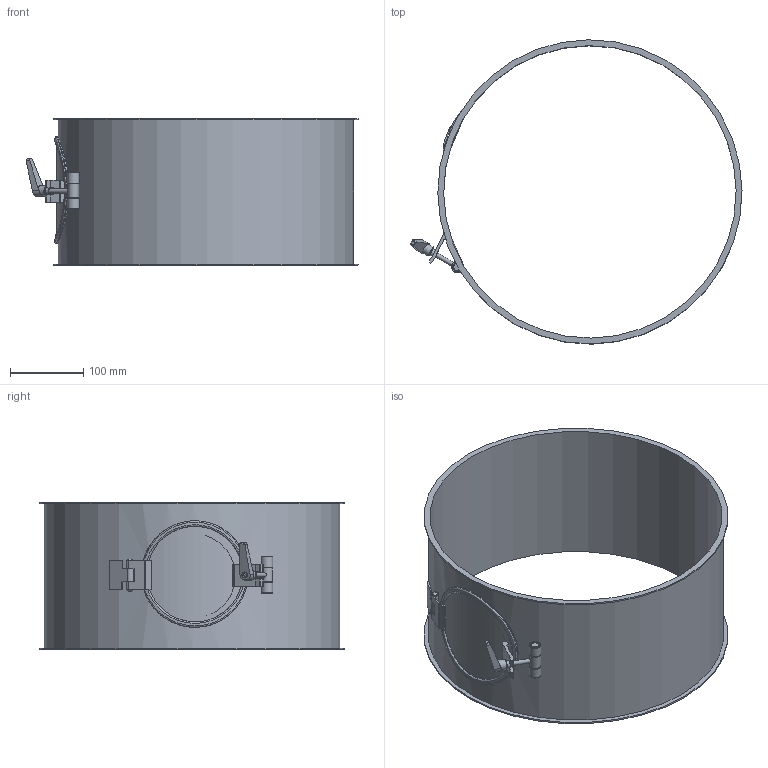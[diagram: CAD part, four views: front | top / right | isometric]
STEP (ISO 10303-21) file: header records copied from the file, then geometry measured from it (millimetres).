
FILE_DESCRIPTION((''),'2;1');
FILE_NAME('U:\Wolfgang\Marcel-3D\fertig\Kapitel 4\4021043.stp','2011-04-21T08:31:47',('TK1'),(''),'Autodesk Inventor 2010','Autodesk Inventor 2010','');
FILE_SCHEMA(('AUTOMOTIVE_DESIGN { 1 0 10303 214 1 1 1 1 }'));
Length unit declared in the file: millimetre
Products named in the file (13): 4021043 (Detailgenauigkeit1); 4021043-1; GelenkDeckel40; GelenkDeckel1c; Deckel402; Deckel40; GelenkDeckel35a; dichtung40; Halterung Deckel40; VerschlussB6; Verschluss1; Verschluss2; Verstellbarer Klemmhebel GN 101-14-M6-SW
Assembly tree (13 placements, depth 3):
  4021043 (Detailgenauigkeit1)
    4021043-1
    GelenkDeckel40
    GelenkDeckel1c
    Deckel402
      Deckel40
      GelenkDeckel35a
      dichtung40
      Halterung Deckel40
    VerschlussB6
      Verschluss1  x2
      Verschluss2
    Verstellbarer Klemmhebel GN 101-14-M6-SW
Bounding box: 451.86 x 413.99 x 200 mm (x, y, z)
Volume: 574356.2 mm3; surface area: 577193.1 mm2
Topology: 11 solids, 11 shells, 143 faces, 328 edges, 215 vertices
Faces by surface type: plane 67, cylinder 47, cone 18, torus 5, bspline 4, sphere 2
Full cylindrical faces by diameter (mm): 4.8 x1, 6 x5, 8 x1, 10 x3, 11 x2, 14 x1, 15 x1, 16 x2, 115 x1, 130 x1, 135 x1, 145 x1, 398 x1, 402 x1, 414 x2
Entity records: 5656 total; most frequent: CARTESIAN_POINT 2388, DIRECTION 632, ORIENTED_EDGE 532, EDGE_CURVE 266, AXIS2_PLACEMENT_3D 247, VERTEX_POINT 195, EDGE_LOOP 193, VECTOR 138
